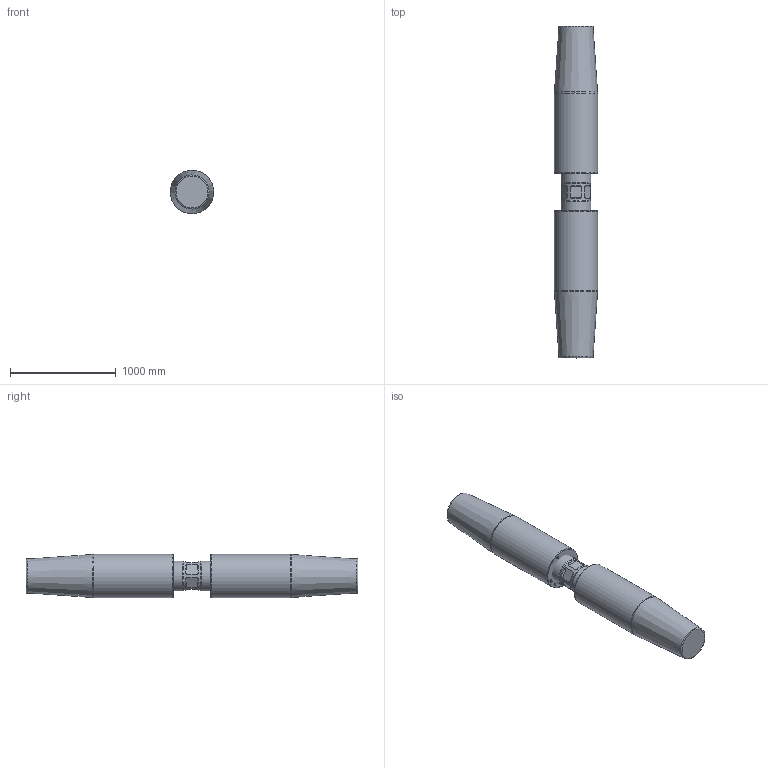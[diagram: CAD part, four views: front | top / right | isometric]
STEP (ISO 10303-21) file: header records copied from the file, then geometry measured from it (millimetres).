
FILE_DESCRIPTION(/* description */ (''),/* implementation_level */ '2;1');
FILE_NAME(/* name */ 'D:\Clienti\Redaelli (inventor)\CYA\STEP\Arrangement\CYA140 52 061 2.stp',/* time_stamp */ '2021-05-09T10:48:08+02:00',/* author */ ('fabri'),/* organization */ (''),/* preprocessor_version */ 'ST-DEVELOPER v16.13',/* originating_system */ 'Autodesk Inventor 2018',/* authorisation */ '');
FILE_SCHEMA (('AUTOMOTIVE_DESIGN { 1 0 10303 214 3 1 1 }'));
Length unit declared in the file: millimetre
Products named in the file (4): CYA012-54-062-0; TBF012-12-012-1; TBF012-13-012-0; TBF012-13-012-0_1
Assembly tree (3 placements, depth 2):
  CYA012-54-062-0
    TBF012-12-012-1
    TBF012-13-012-0
    TBF012-13-012-0_1
Bounding box: 409.73 x 3145 x 409.73 mm (x, y, z)
Volume: 417253393 mm3; surface area: 5183113.2 mm2
Topology: 3 solids, 3 shells, 475 faces, 1263 edges, 840 vertices
Faces by surface type: plane 237, bspline 195, cylinder 25, cone 14, torus 4
Full cylindrical faces by diameter (mm): 17.294 x2, 23.752 x6, 272.5 x1, 280 x2, 410 x2
Entity records: 15991 total; most frequent: CARTESIAN_POINT 5559, ORIENTED_EDGE 2448, DIRECTION 1426, EDGE_CURVE 1224, VERTEX_POINT 832, LINE 772, VECTOR 772, EDGE_LOOP 552
